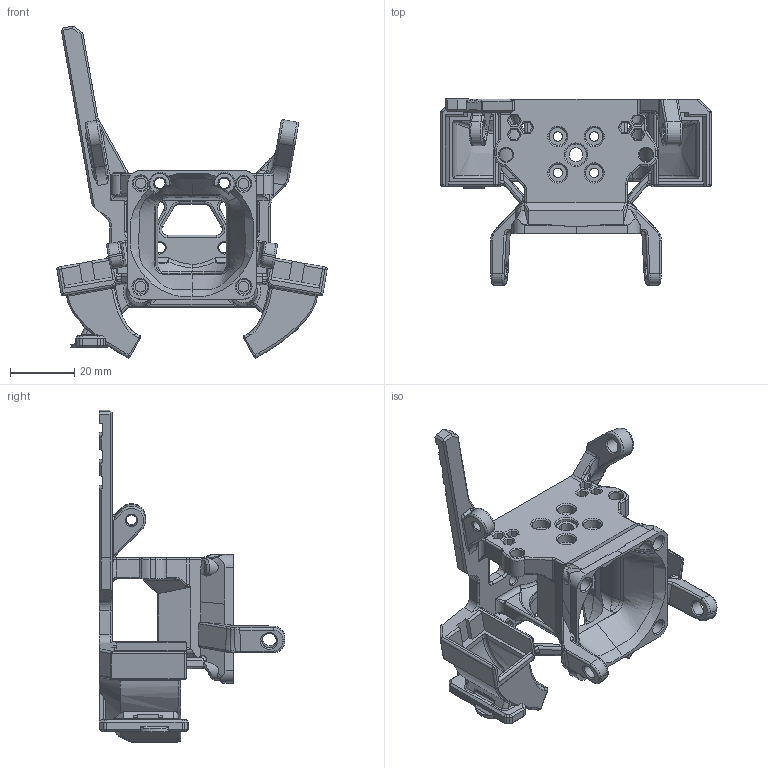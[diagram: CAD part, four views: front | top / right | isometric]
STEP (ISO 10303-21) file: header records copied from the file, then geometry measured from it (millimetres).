
FILE_DESCRIPTION(/* description */ (''),/* implementation_level */ '2;1');
FILE_NAME(/* name */ 'Toolhead Body_Sherpa Mini_+_BD Sensor.step',/* time_stamp */ '2023-10-06T05:51:52-05:00',/* author */ (''),/* organization */ (''),/* preprocessor_version */ 'ST-DEVELOPER v20',/* originating_system */ 'Autodesk Translation Framework v12.14.0.127',/* authorisation */ '');
FILE_SCHEMA (('AUTOMOTIVE_DESIGN { 1 0 10303 214 3 1 1 }'));
Products named in the file (1): Carriage
Bounding box: 84.01 x 57.7 x 103.14 mm (x, y, z)
Volume: 34887.5 mm3; surface area: 26714.4 mm2
Topology: 1 solids, 1 shells, 1110 faces, 3000 edges, 1859 vertices
Faces by surface type: plane 377, cylinder 338, bspline 270, torus 68, cone 51, sphere 6
Full cylindrical faces by diameter (mm): 1.769 x5, 2.055 x2, 2.9 x4, 3.3 x11, 4.1 x4, 4.5 x7, 5.5 x4, 6.1 x1, 6.5 x1
Entity records: 69108 total; most frequent: CARTESIAN_POINT 43029, ORIENTED_EDGE 5948, DIRECTION 4728, EDGE_CURVE 2974, VERTEX_POINT 1859, AXIS2_PLACEMENT_3D 1703, LINE 1322, VECTOR 1322
